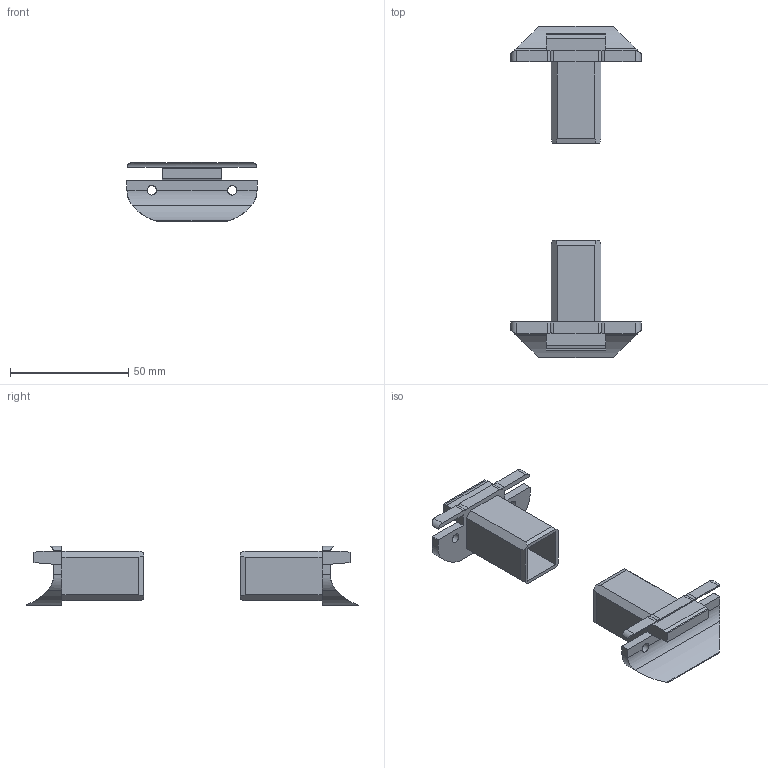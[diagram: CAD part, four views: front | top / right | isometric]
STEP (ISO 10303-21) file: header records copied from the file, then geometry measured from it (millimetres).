
FILE_DESCRIPTION (( 'STEP AP214' ), '1' );
FILE_NAME ('L15841 ENS.step', '2024-12-03T16:22:07', ( '' ), ( '' ), 'SwSTEP 2.0', 'SolidWorks 2023', '' );
FILE_SCHEMA (( 'AUTOMOTIVE_DESIGN' ));
Length unit declared in the file: millimetre
Products named in the file (2): L15841 ENS; L15841
Assembly tree (2 placements, depth 2):
  L15841 ENS
    L15841  x2
Bounding box: 55 x 140.35 x 25 mm (x, y, z)
Volume: 23186.5 mm3; surface area: 18676 mm2
Topology: 2 solids, 2 shells, 120 faces, 340 edges, 224 vertices
Faces by surface type: plane 76, cylinder 44
Full cylindrical faces by diameter (mm): 4 x4
Entity records: 2121 total; most frequent: CARTESIAN_POINT 533, ORIENTED_EDGE 332, DIRECTION 300, EDGE_CURVE 166, LINE 122, VECTOR 122, VERTEX_POINT 110, AXIS2_PLACEMENT_3D 89
